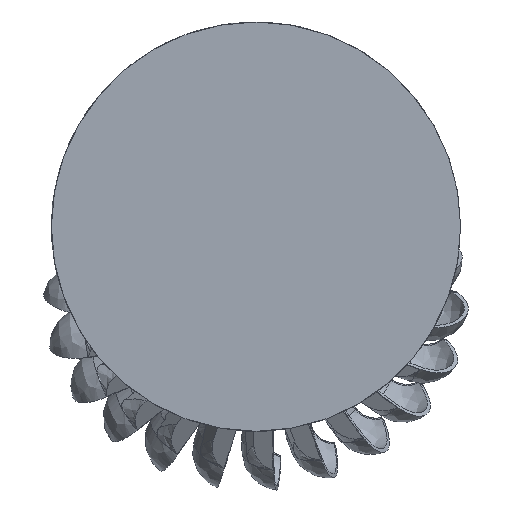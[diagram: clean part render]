
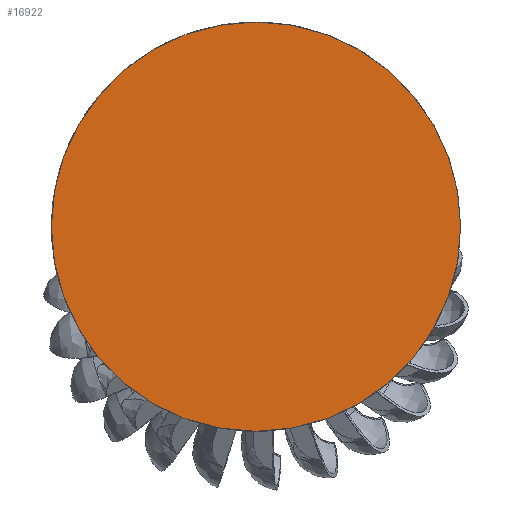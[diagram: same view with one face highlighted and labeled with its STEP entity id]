
A CAD part, left-side view. The second image highlights one B-rep face of the part: STEP entity #16922.
In plain terms, the highlighted planar face has unit normal (-1, 0, 0) as drawn and (0, -1, 0) by its records, which use the part's own axes.
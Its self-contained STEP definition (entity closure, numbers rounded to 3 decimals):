
#1921=PLANE('',#18187);
#4631=FACE_OUTER_BOUND('',#5589,.T.);
#5589=EDGE_LOOP('',(#15244));
#6103=CIRCLE('',#18181,30.);
#7717=VERTEX_POINT('',#45942);
#10220=EDGE_CURVE('',#7717,#7717,#6103,.T.);
#15244=ORIENTED_EDGE('',*,*,#10220,.F.);
#16922=ADVANCED_FACE('',(#4631),#1921,.F.);
#18181=AXIS2_PLACEMENT_3D('',#45944,#21281,#21282);
#18187=AXIS2_PLACEMENT_3D('',#46179,#21295,#21296);
#21281=DIRECTION('center_axis',(0.,1.,0.));
#21282=DIRECTION('ref_axis',(-1.,0.,0.));
#21295=DIRECTION('center_axis',(0.,1.,0.));
#21296=DIRECTION('ref_axis',(0.,0.,1.));
#45942=CARTESIAN_POINT('',(30.,0.,0.));
#45944=CARTESIAN_POINT('Origin',(0.,0.,0.));
#46179=CARTESIAN_POINT('Origin',(0.,0.,0.));
